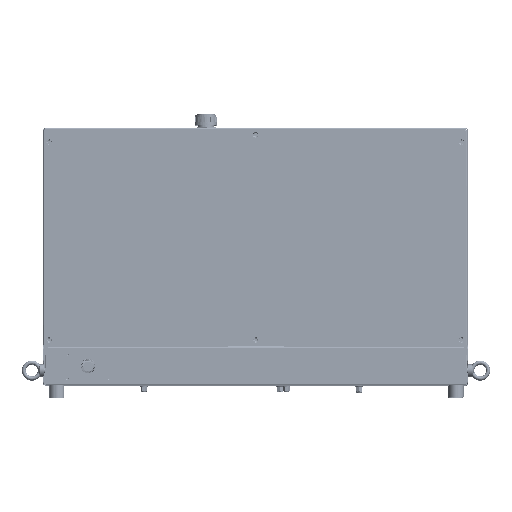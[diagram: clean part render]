
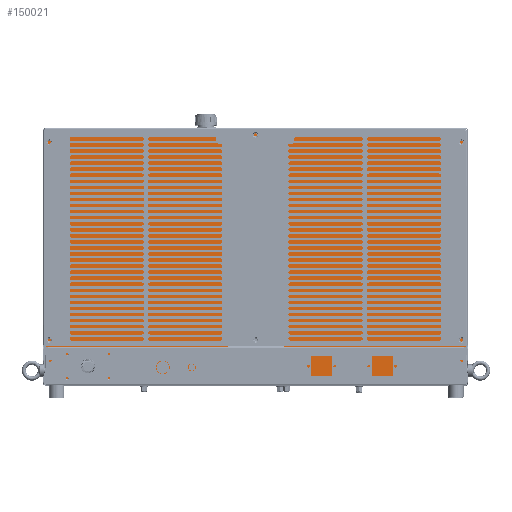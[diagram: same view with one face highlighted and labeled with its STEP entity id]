
A CAD part, top view. The second image highlights one B-rep face of the part: STEP entity #150021.
In plain terms, the highlighted planar face has unit normal (0, 0, 1).
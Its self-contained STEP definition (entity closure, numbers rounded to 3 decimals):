
#10 = CARTESIAN_POINT ( 'NONE',  ( 349.5, 0., 222.771 ) ) ;
#1232 = VECTOR ( 'NONE', #153617, 1000. ) ;
#2777 = ORIENTED_EDGE ( 'NONE', *, *, #97438, .T. ) ;
#6116 = EDGE_CURVE ( 'NONE', #91844, #91844, #202629, .T. ) ;
#10415 = LINE ( 'NONE', #12610, #58880 ) ;
#12610 = CARTESIAN_POINT ( 'NONE',  ( 349.5, 420., 222.771 ) ) ;
#16725 = EDGE_CURVE ( 'NONE', #172763, #197162, #115434, .T. ) ;
#16875 = CARTESIAN_POINT ( 'NONE',  ( -349.5, 420., 222.771 ) ) ;
#17634 = ORIENTED_EDGE ( 'NONE', *, *, #116049, .T. ) ;
#19839 = DIRECTION ( 'NONE',  ( 0., -1., 0. ) ) ;
#29592 = DIRECTION ( 'NONE',  ( 1., 0., 0. ) ) ;
#37978 = ORIENTED_EDGE ( 'NONE', *, *, #39238, .F. ) ;
#39238 = EDGE_CURVE ( 'NONE', #197162, #93561, #10415, .T. ) ;
#40256 = AXIS2_PLACEMENT_3D ( 'NONE', #71312, #176296, #142383 ) ;
#49474 = FACE_BOUND ( 'NONE', #136277, .T. ) ;
#50600 = PLANE ( 'NONE',  #110876 ) ;
#52692 = CARTESIAN_POINT ( 'NONE',  ( -349.5, 0., 222.771 ) ) ;
#56263 = ORIENTED_EDGE ( 'NONE', *, *, #6116, .T. ) ;
#58880 = VECTOR ( 'NONE', #221649, 1000. ) ;
#64510 = LINE ( 'NONE', #16875, #1232 ) ;
#71096 = VECTOR ( 'NONE', #29592, 1000. ) ;
#71312 = CARTESIAN_POINT ( 'NONE',  ( 0., 74.273, 222.771 ) ) ;
#78123 = ORIENTED_EDGE ( 'NONE', *, *, #16725, .F. ) ;
#84744 = DIRECTION ( 'NONE',  ( 1., 0., 0. ) ) ;
#91163 = VERTEX_POINT ( 'NONE', #52692 ) ;
#91844 = VERTEX_POINT ( 'NONE', #113285 ) ;
#93561 = VERTEX_POINT ( 'NONE', #177657 ) ;
#97438 = EDGE_CURVE ( 'NONE', #91163, #93561, #141121, .T. ) ;
#101814 = CARTESIAN_POINT ( 'NONE',  ( -349.5, 420., 222.771 ) ) ;
#110876 = AXIS2_PLACEMENT_3D ( 'NONE', #162137, #145199, #19839 ) ;
#113285 = CARTESIAN_POINT ( 'NONE',  ( -5.25, 74.273, 222.771 ) ) ;
#115434 = LINE ( 'NONE', #168530, #71096 ) ;
#116049 = EDGE_CURVE ( 'NONE', #172763, #91163, #64510, .T. ) ;
#117571 = EDGE_LOOP ( 'NONE', ( #2777, #37978, #78123, #17634 ) ) ;
#136277 = EDGE_LOOP ( 'NONE', ( #56263 ) ) ;
#141121 = LINE ( 'NONE', #10, #191763 ) ;
#142383 = DIRECTION ( 'NONE',  ( -1., 0., 0. ) ) ;
#145199 = DIRECTION ( 'NONE',  ( 0., 0., -1. ) ) ;
#150021 = ADVANCED_FACE ( 'NONE', ( #49474, #170215 ), #50600, .F. ) ;
#153617 = DIRECTION ( 'NONE',  ( 0., -1., 0. ) ) ;
#162137 = CARTESIAN_POINT ( 'NONE',  ( 349.5, 420., 222.771 ) ) ;
#165318 = CARTESIAN_POINT ( 'NONE',  ( 349.5, 420., 222.771 ) ) ;
#168530 = CARTESIAN_POINT ( 'NONE',  ( 349.5, 420., 222.771 ) ) ;
#170215 = FACE_OUTER_BOUND ( 'NONE', #117571, .T. ) ;
#172763 = VERTEX_POINT ( 'NONE', #101814 ) ;
#176296 = DIRECTION ( 'NONE',  ( 0., 0., -1. ) ) ;
#177657 = CARTESIAN_POINT ( 'NONE',  ( 349.5, 0., 222.771 ) ) ;
#191763 = VECTOR ( 'NONE', #84744, 1000. ) ;
#197162 = VERTEX_POINT ( 'NONE', #165318 ) ;
#202629 = CIRCLE ( 'NONE', #40256, 5.25 ) ;
#221649 = DIRECTION ( 'NONE',  ( 0., -1., 0. ) ) ;
